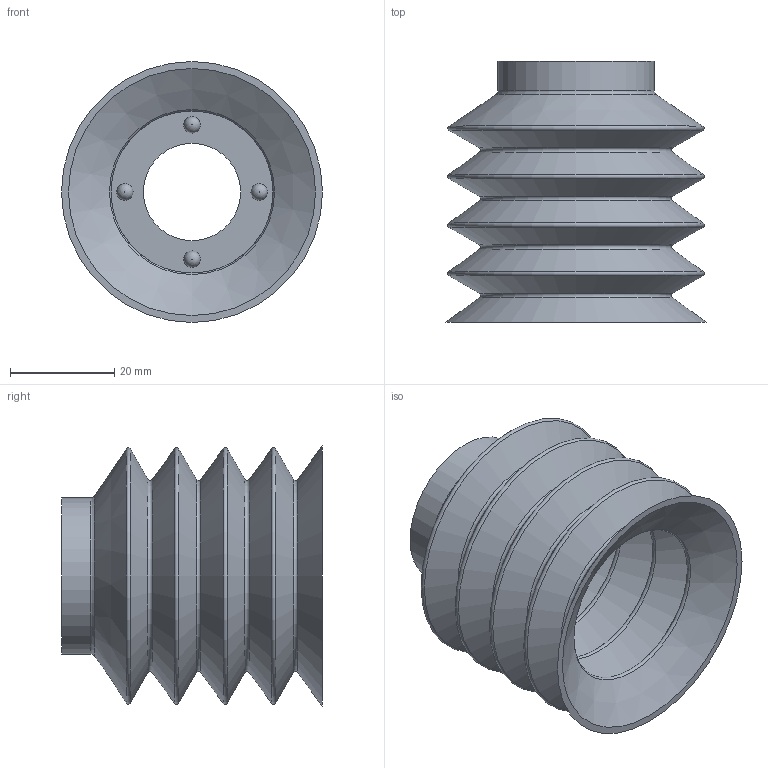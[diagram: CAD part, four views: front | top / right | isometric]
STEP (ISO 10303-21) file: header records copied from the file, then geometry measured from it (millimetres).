
FILE_DESCRIPTION (( 'STEP AP214' ), '1' );
FILE_NAME ('45B.050.100.02.STEP', '2026-06-01T19:01:28', ( '' ), ( '' ), 'SwSTEP 2.0', 'SolidWorks 2025', '' );
FILE_SCHEMA (( 'AUTOMOTIVE_DESIGN' ));
Length unit declared in the file: millimetre
Products named in the file (1): 45B.050.100.02
Bounding box: 50.04 x 50.04 x 50.04 mm (x, y, z)
Volume: 18614.6 mm3; surface area: 21034.6 mm2
Topology: 1 solids, 1 shells, 52 faces, 102 edges, 57 vertices
Faces by surface type: torus 21, cone 18, plane 7, cylinder 6
Full cylindrical faces by diameter (mm): 3.15 x4, 18.631 x1, 29.972 x1
Entity records: 1071 total; most frequent: DIRECTION 210, CARTESIAN_POINT 157, AXIS2_PLACEMENT_3D 105, ORIENTED_EDGE 104, EDGE_LOOP 104, FACE_OUTER_BOUND 79, VERTEX_POINT 52, EDGE_CURVE 52
